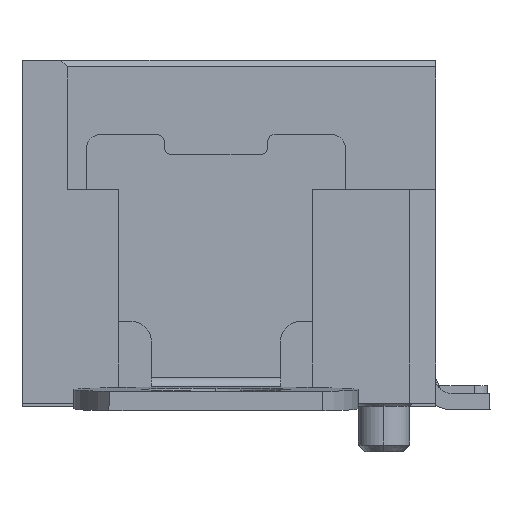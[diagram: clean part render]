
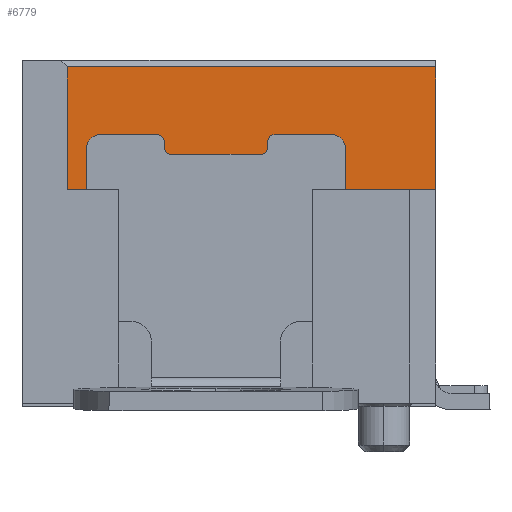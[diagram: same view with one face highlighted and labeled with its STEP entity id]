
A CAD part, left-side view. The second image highlights one B-rep face of the part: STEP entity #6779.
In plain terms, the highlighted planar face has unit normal (-1, 0, 0).
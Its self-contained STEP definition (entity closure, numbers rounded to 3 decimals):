
#7 = EDGE_CURVE ( 'NONE', #9559, #19754, #13217, .T. ) ;
#38 = DIRECTION ( 'NONE',  ( 0., 0., 1. ) ) ;
#95 = CARTESIAN_POINT ( 'NONE',  ( -13.5, 0., 8.3 ) ) ;
#642 = VERTEX_POINT ( 'NONE', #22140 ) ;
#711 = EDGE_CURVE ( 'NONE', #9559, #23621, #8817, .T. ) ;
#732 = ORIENTED_EDGE ( 'NONE', *, *, #7, .F. ) ;
#800 = CARTESIAN_POINT ( 'NONE',  ( -13.5, 0., 6.4 ) ) ;
#1343 = VECTOR ( 'NONE', #12734, 1000. ) ;
#1926 = LINE ( 'NONE', #5258, #1343 ) ;
#2978 = EDGE_LOOP ( 'NONE', ( #3629, #732, #20591, #16778 ) ) ;
#3629 = ORIENTED_EDGE ( 'NONE', *, *, #5356, .T. ) ;
#5258 = CARTESIAN_POINT ( 'NONE',  ( -13.5, -0.7, 0. ) ) ;
#5356 = EDGE_CURVE ( 'NONE', #642, #19754, #1926, .T. ) ;
#5981 = DIRECTION ( 'NONE',  ( 0., 0., -1. ) ) ;
#6397 = DIRECTION ( 'NONE',  ( 0., 1., 0. ) ) ;
#6632 = VECTOR ( 'NONE', #9428, 1000. ) ;
#6779 = ADVANCED_FACE ( 'NONE', ( #12060 ), #7769, .F. ) ;
#7769 = PLANE ( 'NONE',  #22138 ) ;
#8263 = VECTOR ( 'NONE', #6397, 1000. ) ;
#8817 = LINE ( 'NONE', #22308, #23057 ) ;
#9428 = DIRECTION ( 'NONE',  ( 0., 1., 0. ) ) ;
#9520 = CARTESIAN_POINT ( 'NONE',  ( -13.5, -6.4, 6.4 ) ) ;
#9559 = VERTEX_POINT ( 'NONE', #9520 ) ;
#11522 = CARTESIAN_POINT ( 'NONE',  ( -13.5, 0., 0. ) ) ;
#11585 = LINE ( 'NONE', #95, #6632 ) ;
#12060 = FACE_OUTER_BOUND ( 'NONE', #2978, .T. ) ;
#12111 = EDGE_CURVE ( 'NONE', #23621, #642, #11585, .T. ) ;
#12734 = DIRECTION ( 'NONE',  ( 0., 0., -1. ) ) ;
#13217 = LINE ( 'NONE', #800, #8263 ) ;
#16778 = ORIENTED_EDGE ( 'NONE', *, *, #12111, .T. ) ;
#17106 = DIRECTION ( 'NONE',  ( 1., 0., 0. ) ) ;
#17655 = CARTESIAN_POINT ( 'NONE',  ( -13.5, -0.7, 6.4 ) ) ;
#19694 = CARTESIAN_POINT ( 'NONE',  ( -13.5, -6.4, 8.3 ) ) ;
#19754 = VERTEX_POINT ( 'NONE', #17655 ) ;
#20591 = ORIENTED_EDGE ( 'NONE', *, *, #711, .T. ) ;
#22138 = AXIS2_PLACEMENT_3D ( 'NONE', #11522, #17106, #5981 ) ;
#22140 = CARTESIAN_POINT ( 'NONE',  ( -13.5, -0.7, 8.3 ) ) ;
#22308 = CARTESIAN_POINT ( 'NONE',  ( -13.5, -6.4, 0. ) ) ;
#23057 = VECTOR ( 'NONE', #38, 1000. ) ;
#23621 = VERTEX_POINT ( 'NONE', #19694 ) ;
